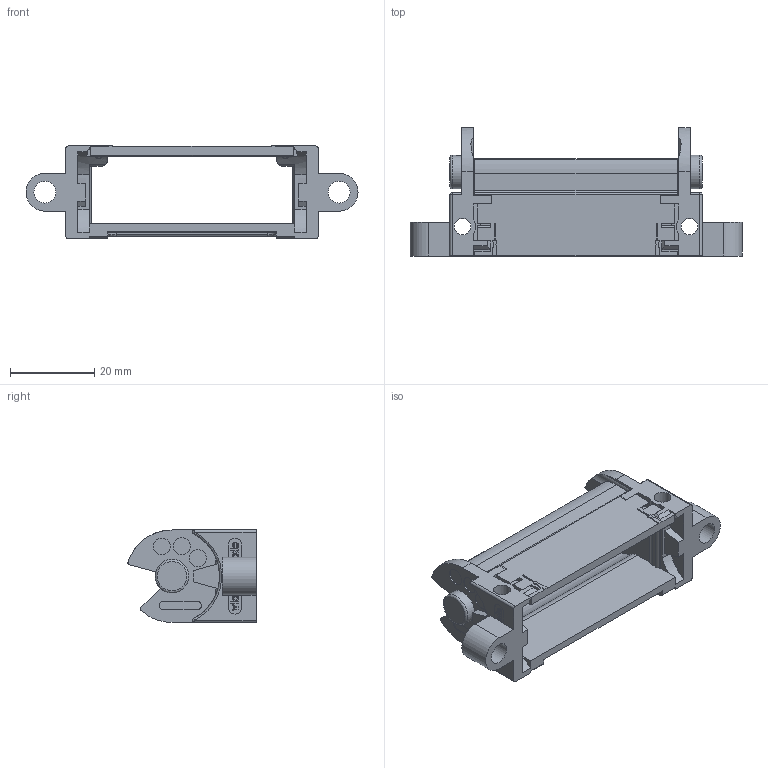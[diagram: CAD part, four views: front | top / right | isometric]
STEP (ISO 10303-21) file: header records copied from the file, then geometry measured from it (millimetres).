
FILE_DESCRIPTION((''),'2;1');
FILE_NAME('C:\Uebbing\PARAMETERKETTEN\KOLIBRI\Kol_22_060_5\KOLIBRI 22_060_5_SFA_Zapfen.stp','2013-04-16T11:46:18',('Uebbing'),(''),'Autodesk Inventor 10','Autodesk Inventor 10','');
FILE_SCHEMA(('AUTOMOTIVE_DESIGN { 1 0 10303 214 1 1 1 1 }'));
Length unit declared in the file: millimetre
Products named in the file (3): KOLIBRI 22_060_5_SFA_Zapfen; Kol_22_060_5_Stirnflansch Zapfen; Kol_22_060_5_Klappdeckel geschnitten 1
Assembly tree (2 placements, depth 2):
  KOLIBRI 22_060_5_SFA_Zapfen
    Kol_22_060_5_Stirnflansch Zapfen
    Kol_22_060_5_Klappdeckel geschnitten 1
Bounding box: 79 x 30.5 x 22.1 mm (x, y, z)
Volume: 8529.9 mm3; surface area: 10114.9 mm2
Topology: 4 solids, 10 shells, 654 faces, 1812 edges, 1180 vertices
Faces by surface type: bspline 315, plane 231, cylinder 101, torus 3, sphere 2, cone 2
Full cylindrical faces by diameter (mm): 0.804 x1, 1.412 x1, 1.8 x2, 2 x2, 4 x5, 5.2 x1, 8 x1
Entity records: 22469 total; most frequent: CARTESIAN_POINT 6576, ORIENTED_EDGE 3536, DIRECTION 2824, EDGE_CURVE 1768, VECTOR 1314, LINE 1314, VERTEX_POINT 1170, AXIS2_PLACEMENT_3D 755
